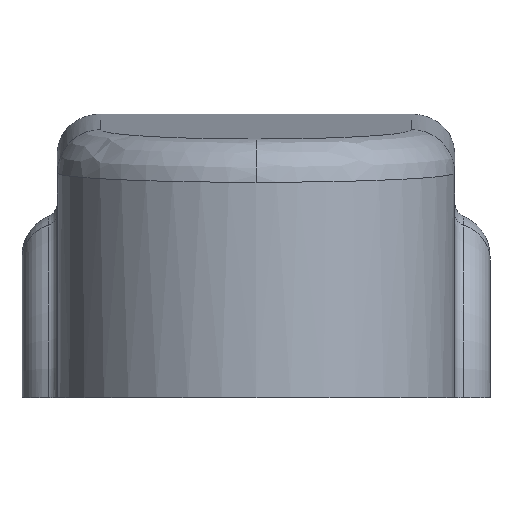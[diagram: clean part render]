
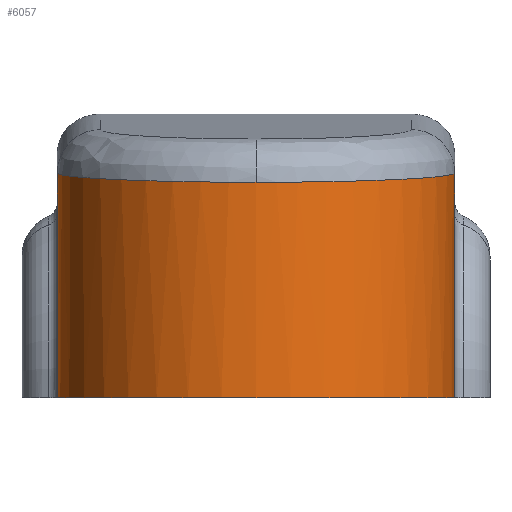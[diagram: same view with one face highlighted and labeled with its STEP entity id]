
A CAD part, front view. The second image highlights one B-rep face of the part: STEP entity #6057.
In plain terms, the highlighted cylindrical face has radius 13.75 mm (diameter 27.5 mm), a partial arc.
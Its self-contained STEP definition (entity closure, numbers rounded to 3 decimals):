
#64 = VERTEX_POINT ( 'NONE', #4365 ) ;
#92 = LINE ( 'NONE', #3992, #3458 ) ;
#136 = CARTESIAN_POINT ( 'NONE',  ( 8.055, -13.75, 14.926 ) ) ;
#677 = CYLINDRICAL_SURFACE ( 'NONE', #2660, 13.75 ) ;
#688 = VERTEX_POINT ( 'NONE', #2426 ) ;
#998 = VECTOR ( 'NONE', #1496, 1000. ) ;
#1156 = EDGE_CURVE ( 'NONE', #1655, #64, #2018, .T. ) ;
#1266 =( BOUNDED_CURVE ( )  B_SPLINE_CURVE ( 3, ( #5659, #2949, #136, #2440 ),
 .UNSPECIFIED., .F., .T. ) 
 B_SPLINE_CURVE_WITH_KNOTS ( ( 4, 4 ),
 ( 4.712, 6.283 ),
 .UNSPECIFIED. ) 
 CURVE ( )  GEOMETRIC_REPRESENTATION_ITEM ( )  RATIONAL_B_SPLINE_CURVE ( ( 1., 0.805, 0.805, 1. ) ) 
 REPRESENTATION_ITEM ( '' )  );
#1494 = CARTESIAN_POINT ( 'NONE',  ( 0., -13.75, 14.926 ) ) ;
#1496 = DIRECTION ( 'NONE',  ( 0., 0., -1. ) ) ;
#1556 = VERTEX_POINT ( 'NONE', #1494 ) ;
#1585 = ORIENTED_EDGE ( 'NONE', *, *, #2775, .F. ) ;
#1655 = VERTEX_POINT ( 'NONE', #3463 ) ;
#1671 = ORIENTED_EDGE ( 'NONE', *, *, #3419, .T. ) ;
#1975 = DIRECTION ( 'NONE',  ( 0., 0., 1. ) ) ;
#2018 = CIRCLE ( 'NONE', #6101, 13.75 ) ;
#2068 = CARTESIAN_POINT ( 'NONE',  ( -13.75, -8.055, 15.194 ) ) ;
#2426 = CARTESIAN_POINT ( 'NONE',  ( -13.75, 0., 15.574 ) ) ;
#2440 = CARTESIAN_POINT ( 'NONE',  ( 0., -13.75, 14.926 ) ) ;
#2576 = CARTESIAN_POINT ( 'NONE',  ( -8.055, -13.75, 14.926 ) ) ;
#2660 = AXIS2_PLACEMENT_3D ( 'NONE', #2914, #5130, #4588 ) ;
#2705 = ORIENTED_EDGE ( 'NONE', *, *, #1156, .T. ) ;
#2775 = EDGE_CURVE ( 'NONE', #5523, #64, #6926, .T. ) ;
#2800 = DIRECTION ( 'NONE',  ( 0., 0., -1. ) ) ;
#2914 = CARTESIAN_POINT ( 'NONE',  ( 0., 0., 19.65 ) ) ;
#2949 = CARTESIAN_POINT ( 'NONE',  ( 13.75, -8.055, 15.194 ) ) ;
#2978 = ORIENTED_EDGE ( 'NONE', *, *, #7118, .T. ) ;
#3349 = EDGE_CURVE ( 'NONE', #1556, #688, #5259, .T. ) ;
#3419 = EDGE_CURVE ( 'NONE', #688, #1655, #92, .T. ) ;
#3458 = VECTOR ( 'NONE', #2800, 1000. ) ;
#3463 = CARTESIAN_POINT ( 'NONE',  ( -13.75, 0., 0. ) ) ;
#3466 = FACE_OUTER_BOUND ( 'NONE', #4264, .T. ) ;
#3992 = CARTESIAN_POINT ( 'NONE',  ( -13.75, 0., 19.65 ) ) ;
#4264 = EDGE_LOOP ( 'NONE', ( #1585, #2978, #5370, #1671, #2705 ) ) ;
#4365 = CARTESIAN_POINT ( 'NONE',  ( 13.75, 0., 0. ) ) ;
#4588 = DIRECTION ( 'NONE',  ( -1., 0., 0. ) ) ;
#4788 = DIRECTION ( 'NONE',  ( 1., 0., 0. ) ) ;
#5130 = DIRECTION ( 'NONE',  ( 0., 0., -1. ) ) ;
#5259 =( BOUNDED_CURVE ( )  B_SPLINE_CURVE ( 3, ( #6591, #2576, #2068, #5427 ),
 .UNSPECIFIED., .F., .T. ) 
 B_SPLINE_CURVE_WITH_KNOTS ( ( 4, 4 ),
 ( 0., 1.571 ),
 .UNSPECIFIED. ) 
 CURVE ( )  GEOMETRIC_REPRESENTATION_ITEM ( )  RATIONAL_B_SPLINE_CURVE ( ( 1., 0.805, 0.805, 1. ) ) 
 REPRESENTATION_ITEM ( '' )  );
#5370 = ORIENTED_EDGE ( 'NONE', *, *, #3349, .T. ) ;
#5427 = CARTESIAN_POINT ( 'NONE',  ( -13.75, 0., 15.574 ) ) ;
#5523 = VERTEX_POINT ( 'NONE', #5600 ) ;
#5600 = CARTESIAN_POINT ( 'NONE',  ( 13.75, 0., 15.574 ) ) ;
#5659 = CARTESIAN_POINT ( 'NONE',  ( 13.75, 0., 15.574 ) ) ;
#6057 = ADVANCED_FACE ( 'NONE', ( #3466 ), #677, .T. ) ;
#6101 = AXIS2_PLACEMENT_3D ( 'NONE', #6978, #1975, #4788 ) ;
#6500 = CARTESIAN_POINT ( 'NONE',  ( 13.75, 0., 19.65 ) ) ;
#6591 = CARTESIAN_POINT ( 'NONE',  ( 0., -13.75, 14.926 ) ) ;
#6926 = LINE ( 'NONE', #6500, #998 ) ;
#6978 = CARTESIAN_POINT ( 'NONE',  ( 0., 0., 0. ) ) ;
#7118 = EDGE_CURVE ( 'NONE', #5523, #1556, #1266, .T. ) ;
